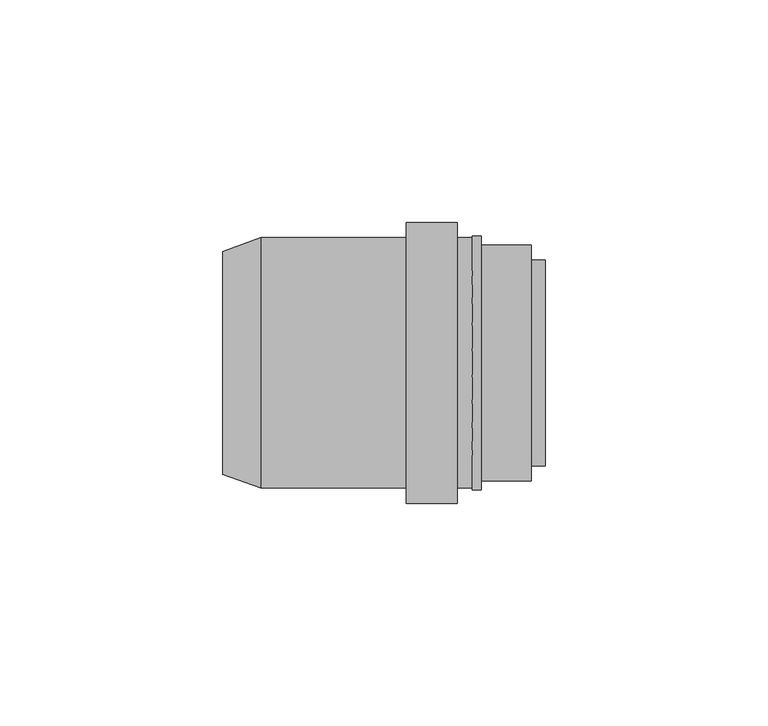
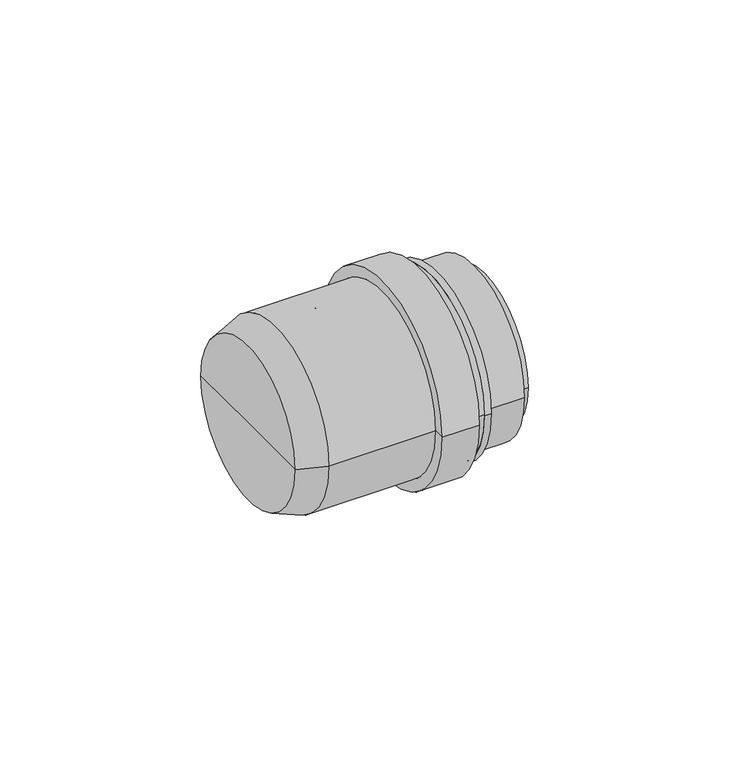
"""IFC4 building model written with IfcOpenShell, lengths in millimetres: pipe fitting geometry, pf_HTR-k : pf_HTR-k."""

from ifc_helpers import new_model, si_unit, frame, origin, place, context, project, spatial, polyline, circle_curve, source, transform, mapped, element, save
from ifc_brep_helpers import plane_surface, cylinder_surface, revolved_surface, advanced_brep


def pipe_fitting_c0e0c10d(model_context):
    return source(origin(), model_context, "Body", "AdvancedBrep", [
        advanced_brep(
        [(-31.4487839, -25.0, 0.0), (-31.4487839, 25.0, 0.0), (-22.9487839, 28.1, 0.0), (-22.9487839, -28.1, 0.0), (-31.4487839, 0.0, 0.0), (24.5512161, -28.1, 0.0), (24.5512161, 28.1, 0.0), (24.5512161, 0.0, 0.0), (21.1512161, -28.1, 0.0), (21.1512161, 28.1, 0.0), (21.1512161, -31.5, 0.0), (21.1512161, 31.5, 0.0), (9.7512161, -31.5, 0.0), (9.7512161, 31.5, 0.0), (9.7512161, -28.1, 0.0), (9.7512161, 28.1, 0.0)],
        [
            (0, 1, circle_curve(frame((-31.4487839, 0.0, 0.0), z_axis=(1.0, 0.0, 0.0), x_axis=(0.0, 1.0, 0.0)), 25.0)),
            (1, 2),
            (2, 3, circle_curve(frame((-22.9487839, 0.0, 0.0), z_axis=(-1.0, 0.0, 0.0), x_axis=(0.0, 1.0, 0.0)), 28.1)),
            (3, 0),
            (1, 0, circle_curve(frame((-31.4487839, 0.0, 0.0), z_axis=(1.0, 0.0, 0.0), x_axis=(0.0, 1.0, 0.0)), 25.0)),
            (3, 2, circle_curve(frame((-22.9487839, 0.0, 0.0), z_axis=(-1.0, 0.0, 0.0), x_axis=(0.0, 1.0, 0.0)), 28.1)),
            (4, 1),
            (0, 4),
            (5, 6, circle_curve(frame((24.5512161, 0.0, 0.0), z_axis=(1.0, 0.0, 0.0), x_axis=(0.0, 1.0, 0.0)), 28.1)),
            (6, 7),
            (7, 5),
            (6, 5, circle_curve(frame((24.5512161, 0.0, 0.0), z_axis=(1.0, 0.0, 0.0), x_axis=(0.0, 1.0, 0.0)), 28.1)),
            (8, 9, circle_curve(frame((21.1512161, 0.0, 0.0), z_axis=(1.0, 0.0, 0.0), x_axis=(0.0, 1.0, 0.0)), 28.1)),
            (9, 6),
            (5, 8),
            (9, 8, circle_curve(frame((21.1512161, 0.0, 0.0), z_axis=(1.0, 0.0, 0.0), x_axis=(0.0, 1.0, 0.0)), 28.1)),
            (10, 11, circle_curve(frame((21.1512161, 0.0, 0.0), z_axis=(1.0, 0.0, 0.0), x_axis=(0.0, 1.0, 0.0)), 31.5)),
            (11, 9),
            (8, 10),
            (11, 10, circle_curve(frame((21.1512161, 0.0, 0.0), z_axis=(1.0, 0.0, 0.0), x_axis=(0.0, 1.0, 0.0)), 31.5)),
            (12, 13, circle_curve(frame((9.7512161, 0.0, 0.0), z_axis=(1.0, 0.0, 0.0), x_axis=(0.0, 1.0, 0.0)), 31.5)),
            (13, 11),
            (10, 12),
            (13, 12, circle_curve(frame((9.7512161, 0.0, 0.0), z_axis=(1.0, 0.0, 0.0), x_axis=(0.0, 1.0, 0.0)), 31.5)),
            (14, 15, circle_curve(frame((9.7512161, 0.0, 0.0), z_axis=(1.0, 0.0, 0.0), x_axis=(0.0, 1.0, 0.0)), 28.1)),
            (15, 13),
            (12, 14),
            (15, 14, circle_curve(frame((9.7512161, 0.0, 0.0), z_axis=(1.0, 0.0, 0.0), x_axis=(0.0, 1.0, 0.0)), 28.1)),
            (2, 15),
            (14, 3),
        ],
        [
            revolved_surface(polyline([(-22.9487839, 28.1, 0.0), (-31.4487839, 25.0, 0.0)]), (-31.4487839, 0.0, 0.0), (-1.0, 0.0, 0.0)),
            plane_surface(frame((-31.4487839, 0.0, 0.0), z_axis=(-1.0, 0.0, 0.0), x_axis=(0.0, 1.0, 0.0))),
            plane_surface(frame((24.5512161, 0.0, 0.0), z_axis=(1.0, 0.0, 0.0), x_axis=(0.0, 1.0, 0.0))),
            cylinder_surface(frame((-31.4487839, 0.0, 0.0), z_axis=(-1.0, 0.0, 0.0), x_axis=(0.0, 1.0, 0.0)), 28.1),
            plane_surface(frame((21.1512161, 0.0, 0.0), z_axis=(1.0, 0.0, 0.0), x_axis=(0.0, 1.0, 0.0))),
            cylinder_surface(frame((-31.4487839, 0.0, 0.0), z_axis=(-1.0, 0.0, 0.0), x_axis=(0.0, 1.0, 0.0)), 31.5),
            plane_surface(frame((9.7512161, 0.0, 0.0), z_axis=(-1.0, 0.0, 0.0), x_axis=(0.0, 1.0, 0.0))),
        ],
        [
            (0, [[1, 2, 3, 4]]),
            (0, [[5, -4, 6, -2]]),
            (1, [[7, -1, 8]]),
            (1, [[-8, -5, -7]]),
            (2, [[9, 10, 11]]),
            (2, [[12, -11, -10]]),
            (3, [[13, 14, -9, 15]]),
            (3, [[16, -15, -12, -14]]),
            (4, [[17, 18, -13, 19]]),
            (4, [[20, -19, -16, -18]]),
            (5, [[21, 22, -17, 23]]),
            (5, [[24, -23, -20, -22]]),
            (6, [[25, 26, -21, 27]]),
            (6, [[28, -27, -24, -26]]),
            (3, [[-3, 29, -25, 30]]),
            (3, [[-6, -30, -28, -29]]),
        ],
    ),
        advanced_brep(
        [(-21.1, -24.0476816, 0.0), (-21.1, 24.0476816, 0.0), (-17.5729824, 24.9927431, 0.0), (-17.5729824, -24.9927431, 0.0), (-21.1, -23.1927164, 0.0), (-21.1, 23.1927164, 0.0), (-3.1, -23.1927164, 0.0), (-3.1, 23.1927164, 0.0), (-3.1, -19.1927164, 0.0), (-3.1, 19.1927164, 0.0), (-2.1, -19.1927164, 0.0), (-2.1, 19.1927164, 0.0), (0.0, -21.2927164, 0.0), (0.0, 21.2927164, 0.0), (40.9, -21.2927164, 0.0), (40.9, 21.2927164, 0.0), (40.9, -23.0927164, 0.0), (40.9, 23.0927164, 0.0), (37.7974615, -23.0927164, 0.0), (37.7974615, 23.0927164, 0.0), (37.7974615, -26.4927164, 0.0), (37.7974615, 26.4927164, 0.0), (26.5, -26.4927164, 0.0), (26.5, 26.4927164, 0.0), (26.5, -28.4927164, 0.0), (26.5, 28.4927164, 0.0), (24.5, -28.4927164, 0.0), (24.5, 28.4927164, 0.0), (24.5, -24.9927431, 0.0), (24.5, 24.9927431, 0.0)],
        [
            (0, 1, circle_curve(frame((-21.1, 0.0, 0.0), z_axis=(1.0, 0.0, 0.0), x_axis=(0.0, 1.0, 0.0)), 24.0476816)),
            (1, 2),
            (2, 3, circle_curve(frame((-17.5729824, 0.0, 0.0), z_axis=(-1.0, 0.0, 0.0), x_axis=(0.0, 1.0, 0.0)), 24.9927431)),
            (3, 0),
            (1, 0, circle_curve(frame((-21.1, 0.0, 0.0), z_axis=(1.0, 0.0, 0.0), x_axis=(0.0, 1.0, 0.0)), 24.0476816)),
            (3, 2, circle_curve(frame((-17.5729824, 0.0, 0.0), z_axis=(-1.0, 0.0, 0.0), x_axis=(0.0, 1.0, 0.0)), 24.9927431)),
            (4, 5, circle_curve(frame((-21.1, 0.0, 0.0), z_axis=(1.0, 0.0, 0.0), x_axis=(0.0, 1.0, 0.0)), 23.1927164)),
            (5, 1),
            (0, 4),
            (5, 4, circle_curve(frame((-21.1, 0.0, 0.0), z_axis=(1.0, 0.0, 0.0), x_axis=(0.0, 1.0, 0.0)), 23.1927164)),
            (6, 7, circle_curve(frame((-3.1, 0.0, 0.0), z_axis=(1.0, 0.0, 0.0), x_axis=(0.0, 1.0, 0.0)), 23.1927164)),
            (7, 5),
            (4, 6),
            (7, 6, circle_curve(frame((-3.1, 0.0, 0.0), z_axis=(1.0, 0.0, 0.0), x_axis=(0.0, 1.0, 0.0)), 23.1927164)),
            (8, 9, circle_curve(frame((-3.1, 0.0, 0.0), z_axis=(1.0, 0.0, 0.0), x_axis=(0.0, 1.0, 0.0)), 19.1927164)),
            (9, 7),
            (6, 8),
            (9, 8, circle_curve(frame((-3.1, 0.0, 0.0), z_axis=(1.0, 0.0, 0.0), x_axis=(0.0, 1.0, 0.0)), 19.1927164)),
            (10, 11, circle_curve(frame((-2.1, 0.0, 0.0), z_axis=(1.0, 0.0, 0.0), x_axis=(0.0, 1.0, 0.0)), 19.1927164)),
            (11, 9),
            (8, 10),
            (11, 10, circle_curve(frame((-2.1, 0.0, 0.0), z_axis=(1.0, 0.0, 0.0), x_axis=(0.0, 1.0, 0.0)), 19.1927164)),
            (12, 13, circle_curve(frame((0.0, 0.0, 0.0), z_axis=(1.0, 0.0, 0.0), x_axis=(0.0, 1.0, 0.0)), 21.2927164)),
            (13, 11),
            (10, 12),
            (13, 12, circle_curve(frame((0.0, 0.0, 0.0), z_axis=(1.0, 0.0, 0.0), x_axis=(0.0, 1.0, 0.0)), 21.2927164)),
            (14, 15, circle_curve(frame((40.9, 0.0, 0.0), z_axis=(1.0, 0.0, 0.0), x_axis=(0.0, 1.0, 0.0)), 21.2927164)),
            (15, 13),
            (12, 14),
            (15, 14, circle_curve(frame((40.9, 0.0, 0.0), z_axis=(1.0, 0.0, 0.0), x_axis=(0.0, 1.0, 0.0)), 21.2927164)),
            (16, 17, circle_curve(frame((40.9, 0.0, 0.0), z_axis=(1.0, 0.0, 0.0), x_axis=(0.0, 1.0, 0.0)), 23.0927164)),
            (17, 15),
            (14, 16),
            (17, 16, circle_curve(frame((40.9, 0.0, 0.0), z_axis=(1.0, 0.0, 0.0), x_axis=(0.0, 1.0, 0.0)), 23.0927164)),
            (18, 19, circle_curve(frame((37.7974615, 0.0, 0.0), z_axis=(1.0, 0.0, 0.0), x_axis=(0.0, 1.0, 0.0)), 23.0927164)),
            (19, 17),
            (16, 18),
            (19, 18, circle_curve(frame((37.7974615, 0.0, 0.0), z_axis=(1.0, 0.0, 0.0), x_axis=(0.0, 1.0, 0.0)), 23.0927164)),
            (20, 21, circle_curve(frame((37.7974615, 0.0, 0.0), z_axis=(1.0, 0.0, 0.0), x_axis=(0.0, 1.0, 0.0)), 26.4927164)),
            (21, 19),
            (18, 20),
            (21, 20, circle_curve(frame((37.7974615, 0.0, 0.0), z_axis=(1.0, 0.0, 0.0), x_axis=(0.0, 1.0, 0.0)), 26.4927164)),
            (22, 23, circle_curve(frame((26.5, 0.0, 0.0), z_axis=(1.0, 0.0, 0.0), x_axis=(0.0, 1.0, 0.0)), 26.4927164)),
            (23, 21),
            (20, 22),
            (23, 22, circle_curve(frame((26.5, 0.0, 0.0), z_axis=(1.0, 0.0, 0.0), x_axis=(0.0, 1.0, 0.0)), 26.4927164)),
            (24, 25, circle_curve(frame((26.5, 0.0, 0.0), z_axis=(1.0, 0.0, 0.0), x_axis=(0.0, 1.0, 0.0)), 28.4927164)),
            (25, 23),
            (22, 24),
            (25, 24, circle_curve(frame((26.5, 0.0, 0.0), z_axis=(1.0, 0.0, 0.0), x_axis=(0.0, 1.0, 0.0)), 28.4927164)),
            (26, 27, circle_curve(frame((24.5, 0.0, 0.0), z_axis=(1.0, 0.0, 0.0), x_axis=(0.0, 1.0, 0.0)), 28.4927164)),
            (27, 25),
            (24, 26),
            (27, 26, circle_curve(frame((24.5, 0.0, 0.0), z_axis=(1.0, 0.0, 0.0), x_axis=(0.0, 1.0, 0.0)), 28.4927164)),
            (28, 29, circle_curve(frame((24.5, 0.0, 0.0), z_axis=(1.0, 0.0, 0.0), x_axis=(0.0, 1.0, 0.0)), 24.9927431)),
            (29, 27),
            (26, 28),
            (29, 28, circle_curve(frame((24.5, 0.0, 0.0), z_axis=(1.0, 0.0, 0.0), x_axis=(0.0, 1.0, 0.0)), 24.9927431)),
            (2, 29),
            (28, 3),
        ],
        [
            revolved_surface(polyline([(-17.5729824, 24.9927431, 0.0), (-21.1, 24.0476816, 0.0)]), (0.0, 0.0, 0.0), (-1.0, 0.0, 0.0)),
            plane_surface(frame((-21.1, 0.0, 0.0), z_axis=(-1.0, 0.0, 0.0), x_axis=(0.0, 1.0, 0.0))),
            revolved_surface(polyline([(-21.1, 23.1927164, 0.0), (-3.1, 23.1927164, 0.0)]), (0.0, 0.0, 0.0), (-1.0, 0.0, 0.0)),
            plane_surface(frame((-3.1, 0.0, 0.0), z_axis=(-1.0, 0.0, 0.0), x_axis=(0.0, 1.0, 0.0))),
            revolved_surface(polyline([(-3.1, 19.1927164, 0.0), (-2.1, 19.1927164, 0.0)]), (0.0, 0.0, 0.0), (-1.0, 0.0, 0.0)),
            revolved_surface(polyline([(-2.1, 19.1927164, 0.0), (0.0, 21.2927164, 0.0)]), (0.0, 0.0, 0.0), (-1.0, 0.0, 0.0)),
            revolved_surface(polyline([(0.0, 21.2927164, 0.0), (40.9, 21.2927164, 0.0)]), (0.0, 0.0, 0.0), (-1.0, 0.0, 0.0)),
            plane_surface(frame((40.9, 0.0, 0.0), z_axis=(1.0, 0.0, 0.0), x_axis=(0.0, 1.0, 0.0))),
            cylinder_surface(frame((0.0, 0.0, 0.0), z_axis=(-1.0, 0.0, 0.0), x_axis=(0.0, 1.0, 0.0)), 23.0927164),
            plane_surface(frame((37.7974615, 0.0, 0.0), z_axis=(1.0, 0.0, 0.0), x_axis=(0.0, 1.0, 0.0))),
            cylinder_surface(frame((0.0, 0.0, 0.0), z_axis=(-1.0, 0.0, 0.0), x_axis=(0.0, 1.0, 0.0)), 26.4927164),
            plane_surface(frame((26.5, 0.0, 0.0), z_axis=(1.0, 0.0, 0.0), x_axis=(0.0, 1.0, 0.0))),
            cylinder_surface(frame((0.0, 0.0, 0.0), z_axis=(-1.0, 0.0, 0.0), x_axis=(0.0, 1.0, 0.0)), 28.4927164),
            plane_surface(frame((24.5, 0.0, 0.0), z_axis=(-1.0, 0.0, 0.0), x_axis=(0.0, 1.0, 0.0))),
            cylinder_surface(frame((0.0, 0.0, 0.0), z_axis=(-1.0, 0.0, 0.0), x_axis=(0.0, 1.0, 0.0)), 24.9927431),
        ],
        [
            (0, [[1, 2, 3, 4]]),
            (0, [[5, -4, 6, -2]]),
            (1, [[7, 8, -1, 9]]),
            (1, [[10, -9, -5, -8]]),
            (2, [[11, 12, -7, 13]]),
            (2, [[14, -13, -10, -12]]),
            (3, [[15, 16, -11, 17]]),
            (3, [[18, -17, -14, -16]]),
            (4, [[19, 20, -15, 21]]),
            (4, [[22, -21, -18, -20]]),
            (5, [[23, 24, -19, 25]]),
            (5, [[26, -25, -22, -24]]),
            (6, [[27, 28, -23, 29]]),
            (6, [[30, -29, -26, -28]]),
            (7, [[31, 32, -27, 33]]),
            (7, [[34, -33, -30, -32]]),
            (8, [[35, 36, -31, 37]]),
            (8, [[38, -37, -34, -36]]),
            (9, [[39, 40, -35, 41]]),
            (9, [[42, -41, -38, -40]]),
            (10, [[43, 44, -39, 45]]),
            (10, [[46, -45, -42, -44]]),
            (11, [[47, 48, -43, 49]]),
            (11, [[50, -49, -46, -48]]),
            (12, [[51, 52, -47, 53]]),
            (12, [[54, -53, -50, -52]]),
            (13, [[55, 56, -51, 57]]),
            (13, [[58, -57, -54, -56]]),
            (14, [[-3, 59, -55, 60]]),
            (14, [[-6, -60, -58, -59]]),
        ],
    ),
    ])


if __name__ == "__main__":
    model = new_model("IFC4")
    model_context = context("Model", 3, world=origin())
    ifc_project = project(units=[si_unit("LENGTHUNIT", "METRE", prefix="MILLI")], contexts=[model_context])
    site = spatial("IfcSite", under=ifc_project)
    building = spatial("IfcBuilding", under=site)
    placement = place(None, origin())
    pipe_fitting_shape = pipe_fitting_c0e0c10d(model_context)
    element("IfcPipeFitting", 1, ObjectType="pf_HTR-k : pf_HTR-k", at=placement, inside=building, context=model_context, shape_type="MappedRepresentation", body=[
        mapped(pipe_fitting_shape, transform((0.0, 0.0, 0.0), x_axis=(1.0, 0.0, 0.0), y_axis=(0.0, 1.0, 0.0), z_axis=(0.0, 0.0, 1.0))),
    ])
    save(model, "model.ifc")
